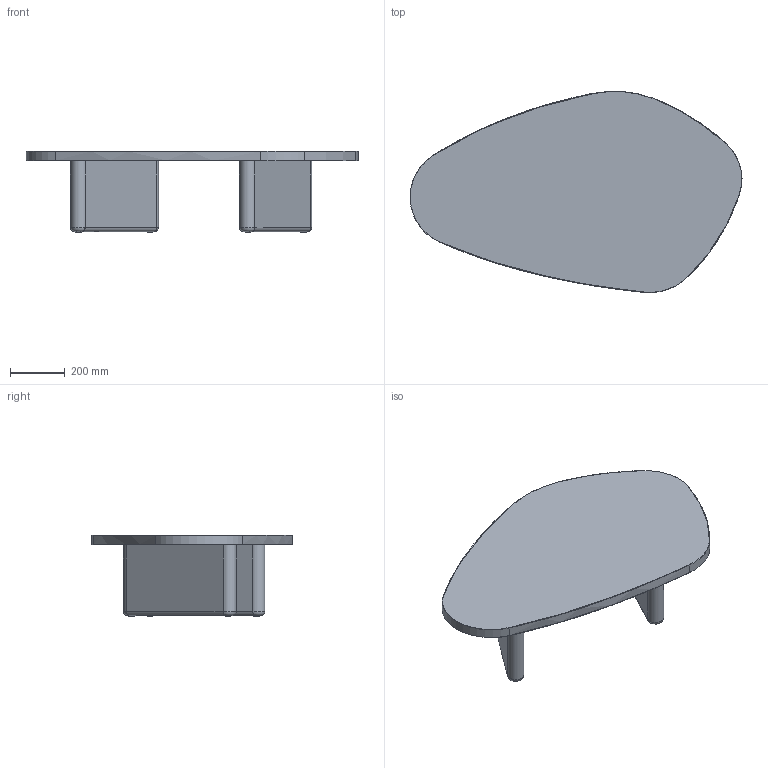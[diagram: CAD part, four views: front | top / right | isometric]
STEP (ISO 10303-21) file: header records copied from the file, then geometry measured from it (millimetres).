
FILE_DESCRIPTION(/* description */ ('Unknown'),/* implementation_level */ '2;1');
FILE_NAME(/* name */ 'MIN004-ORGANIC-r-C',/* time_stamp */ '2024-07-15T07:45:10+10:00',/* author */ ('Unknown'),/* organization */ ('Unknown'),/* preprocessor_version */ 'ST-DEVELOPER v16.7',/* originating_system */ 'Solid Edge',/* authorisation */ 'Unknown');
FILE_SCHEMA (('AUTOMOTIVE_DESIGN {1 0 10303 214 3 1 1}'));
Length unit declared in the file: millimetre
Products named in the file (7): MIN004-ORGANIC-r-C; MIN109-LEG_BRKT-r-C; MIN108-LEG_500Lx259H-r-D; PLASTIC_NAIL_GLIDE_MIN; CSK TORX WOOD SCREW M8X80 ; M6X20_CSK_HEX; MIN107-ORGANIC_TOP-r-B
Assembly tree (27 placements, depth 2):
  MIN004-ORGANIC-r-C
    MIN109-LEG_BRKT-r-C  x4
    MIN108-LEG_500Lx259H-r-D  x2
    PLASTIC_NAIL_GLIDE_MIN  x4
    CSK TORX WOOD SCREW M8X80   x8
    M6X20_CSK_HEX  x8
    MIN107-ORGANIC_TOP-r-B
Bounding box: 1215.74 x 737.01 x 300 mm (x, y, z)
Volume: 38619922.5 mm3; surface area: 2154446.3 mm2
Topology: 27 solids, 27 shells, 778 faces, 1780 edges, 1088 vertices
Faces by surface type: plane 402, cylinder 204, cone 104, torus 48, bspline 12, sphere 8
Full cylindrical faces by diameter (mm): 1 x4, 3.5 x8, 4 x8, 6 x16, 7 x8, 8 x8, 10 x8, 11.7 x8, 15 x8, 19 x4
Entity records: 5359 total; most frequent: CARTESIAN_POINT 1254, DIRECTION 848, ORIENTED_EDGE 664, AXIS2_PLACEMENT_3D 353, EDGE_CURVE 332, EDGE_LOOP 240, FACE_BOUND 240, VERTEX_POINT 226
